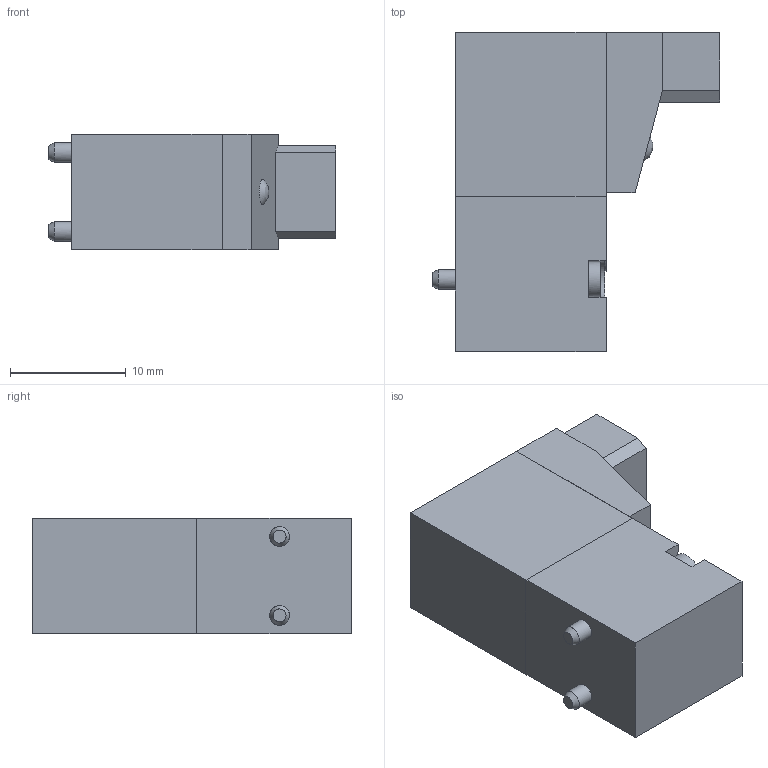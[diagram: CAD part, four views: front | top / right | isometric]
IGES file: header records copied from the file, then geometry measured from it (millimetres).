
Global section: file name: P3##.1; native system: Autodesk Inventor 2014; preprocessor: unknown; author: A. Manieri; organization: Pneumax S.p.A.; date: 20160902.102230; units: millimetre
Bounding box: 24.8 x 27.5 x 10 mm (x, y, z)
Volume: 4248.1 mm3; surface area: 2025.8 mm2
Topology: 1 solids, 1 shells, 87 faces, 218 edges, 143 vertices
Faces by surface type: bspline 87
